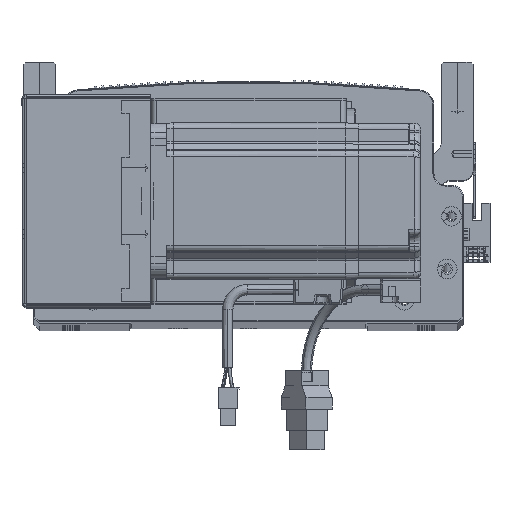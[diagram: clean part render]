
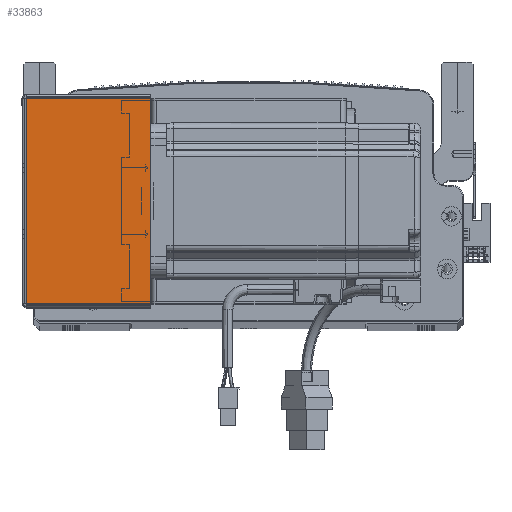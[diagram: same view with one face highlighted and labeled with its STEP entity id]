
A CAD part, top view. The second image highlights one B-rep face of the part: STEP entity #33863.
In plain terms, the highlighted planar face has unit normal (0, 0, 1) as drawn and (0, 0, -1) by its records, which use the part's own axes.
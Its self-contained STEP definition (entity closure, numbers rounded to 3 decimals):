
#2772 = VERTEX_POINT ( 'NONE', #21093 ) ;
#3892 = CARTESIAN_POINT ( 'NONE',  ( 64.5, 0., -205.5 ) ) ;
#6372 = EDGE_CURVE ( 'NONE', #85667, #2772, #26090, .T. ) ;
#8549 = DIRECTION ( 'NONE',  ( 0., -1., 0. ) ) ;
#9784 = AXIS2_PLACEMENT_3D ( 'NONE', #39076, #69607, #69906 ) ;
#11086 = DIRECTION ( 'NONE',  ( 0., -1., 0. ) ) ;
#17334 = DIRECTION ( 'NONE',  ( 1., 0., 0. ) ) ;
#17952 = CARTESIAN_POINT ( 'NONE',  ( 0., 105.293, -205.5 ) ) ;
#21093 = CARTESIAN_POINT ( 'NONE',  ( 0.737, 0.707, -205.5 ) ) ;
#26090 = LINE ( 'NONE', #87040, #70736 ) ;
#27555 = DIRECTION ( 'NONE',  ( 1., 0., 0. ) ) ;
#29321 = ORIENTED_EDGE ( 'NONE', *, *, #59345, .T. ) ;
#32207 = CARTESIAN_POINT ( 'NONE',  ( 64.5, 0.707, -205.5 ) ) ;
#33339 = VECTOR ( 'NONE', #11086, 1000. ) ;
#33863 = ADVANCED_FACE ( 'NONE', ( #59480 ), #81762, .F. ) ;
#34739 = CARTESIAN_POINT ( 'NONE',  ( 0., 0.707, -205.5 ) ) ;
#39076 = CARTESIAN_POINT ( 'NONE',  ( 0., 0., -205.5 ) ) ;
#41494 = EDGE_CURVE ( 'NONE', #2772, #45303, #65830, .T. ) ;
#43271 = EDGE_CURVE ( 'NONE', #79318, #45303, #82411, .T. ) ;
#43675 = ORIENTED_EDGE ( 'NONE', *, *, #41494, .F. ) ;
#45303 = VERTEX_POINT ( 'NONE', #32207 ) ;
#45830 = VECTOR ( 'NONE', #27555, 1000. ) ;
#46599 = CARTESIAN_POINT ( 'NONE',  ( 0.737, 105.293, -205.5 ) ) ;
#52884 = ORIENTED_EDGE ( 'NONE', *, *, #6372, .F. ) ;
#59345 = EDGE_CURVE ( 'NONE', #85667, #79318, #65494, .T. ) ;
#59480 = FACE_OUTER_BOUND ( 'NONE', #79166, .T. ) ;
#59566 = ORIENTED_EDGE ( 'NONE', *, *, #43271, .T. ) ;
#63224 = VECTOR ( 'NONE', #17334, 1000. ) ;
#65494 = LINE ( 'NONE', #17952, #63224 ) ;
#65830 = LINE ( 'NONE', #34739, #45830 ) ;
#69607 = DIRECTION ( 'NONE',  ( 0., 0., 1. ) ) ;
#69906 = DIRECTION ( 'NONE',  ( 1., 0., 0. ) ) ;
#70736 = VECTOR ( 'NONE', #8549, 1000. ) ;
#79166 = EDGE_LOOP ( 'NONE', ( #52884, #29321, #59566, #43675 ) ) ;
#79318 = VERTEX_POINT ( 'NONE', #87517 ) ;
#81762 = PLANE ( 'NONE',  #9784 ) ;
#82411 = LINE ( 'NONE', #3892, #33339 ) ;
#85667 = VERTEX_POINT ( 'NONE', #46599 ) ;
#87040 = CARTESIAN_POINT ( 'NONE',  ( 0.737, 0., -205.5 ) ) ;
#87517 = CARTESIAN_POINT ( 'NONE',  ( 64.5, 105.293, -205.5 ) ) ;
